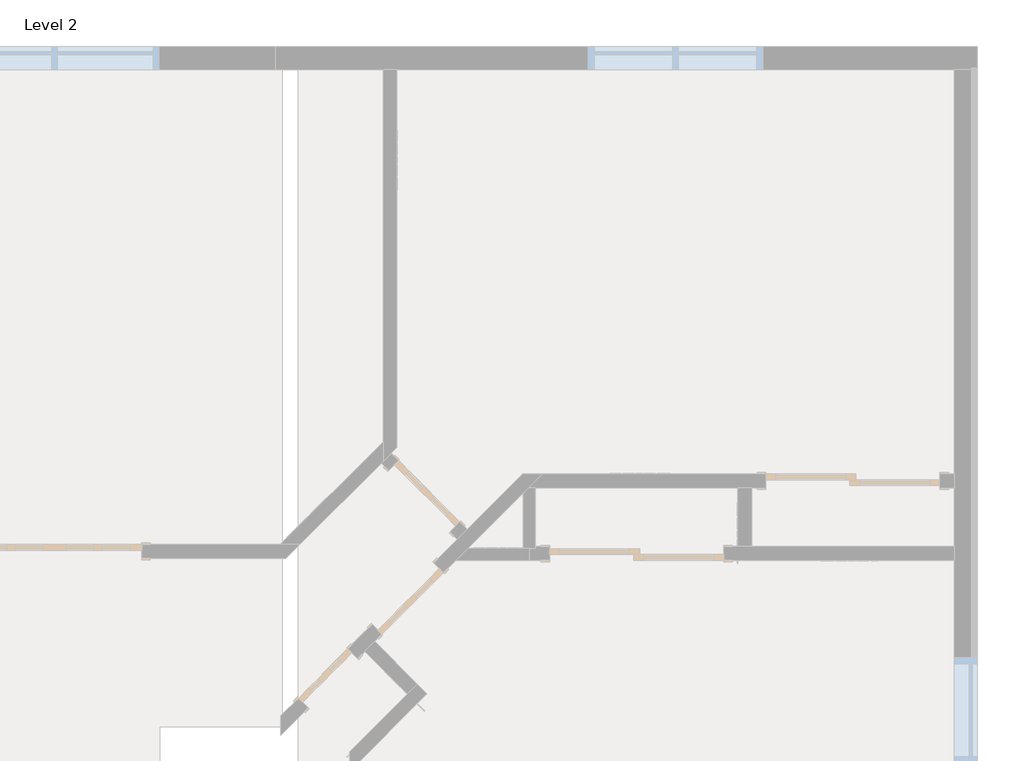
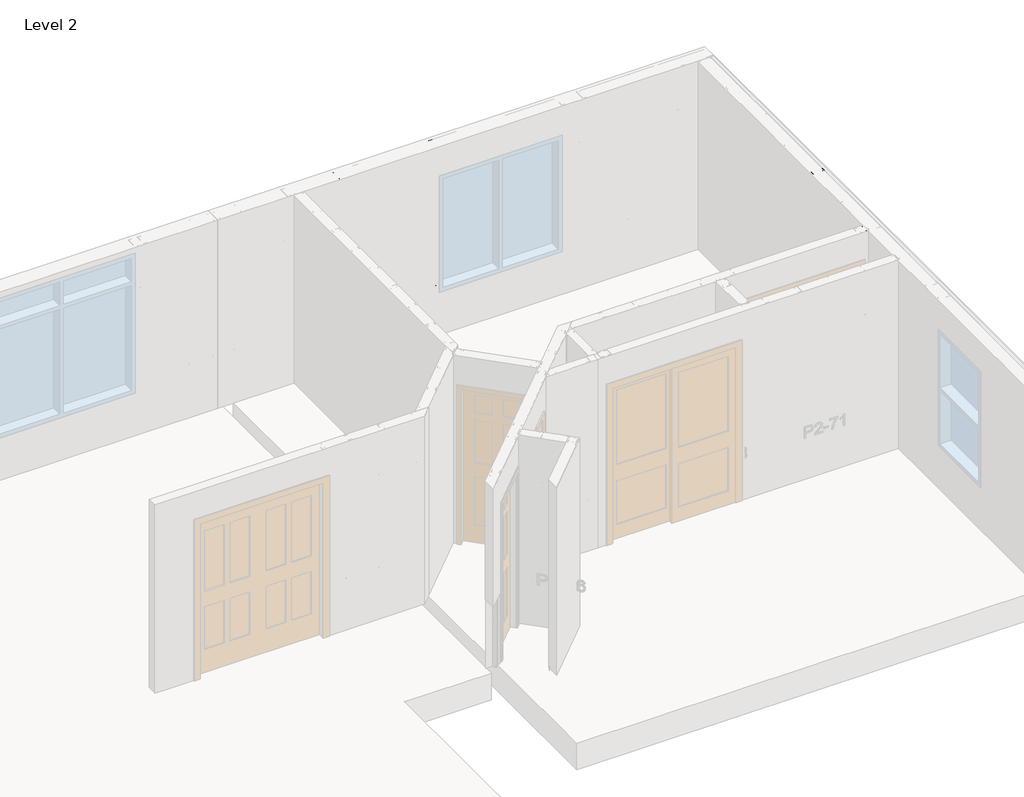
# One storey, part 44 of 46: 6 columns, 2 beams, 2 fasteners.
"""IFC4 building model written with IfcOpenShell, lengths in millimetres."""

from ifc_helpers import new_model, si_unit, point, frame, origin, place, context, project, spatial, circle_curve, ellipse_curve, trimmed, transform, mapped, element, save
from ifc_brep_helpers import plane_surface, extruded_surface, advanced_brep
from components import beam_550nf150_43_bc1485c3, beam_550nf150_43_ef4a749e, panellabel_13bba4b9, panellabel_7984cc64

model = new_model("IFC4")

# Units and contexts
model_context = context("Model", 3, world=origin())
ifc_project = project(units=[si_unit("LENGTHUNIT", "METRE", prefix="MILLI")], contexts=[model_context])

# Site, building, storey
site = spatial("IfcSite", under=ifc_project)
building = spatial("IfcBuilding", under=site)
storey = spatial("IfcBuildingStorey", under=building, Name="Level 2", Elevation=3060.7)

# Beams
placement = place(None, origin())
beam_550nf150_43_shape = beam_550nf150_43_bc1485c3(model_context)
element("IfcBeam", 1, ObjectType="BIMSF-SSMA-S : 550NF150-43", at=placement, inside=storey, context=model_context, shape_type="MappedRepresentation", body=[
    mapped(beam_550nf150_43_shape, transform((-6119.9413349, 13935.202221, 3076.575), x_axis=(1.0000000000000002, 0.0, 0.0), y_axis=(0.0, 0.0, -1.0000000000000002), z_axis=(0.0, 1.0000000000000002, 0.0))),
])
beam_550nf150_43_2_shape = beam_550nf150_43_ef4a749e(model_context)
element("IfcBeam", 2, ObjectType="BIMSF-SSMA-S : 550NF150-43", at=placement, inside=storey, context=model_context, shape_type="MappedRepresentation", body=[
    mapped(beam_550nf150_43_2_shape, transform((-5665.3824436, 13935.202221, 3600.45), x_axis=(1.0, 0.0, 0.0), y_axis=(0.0, 0.0, 1.0), z_axis=(0.0, -1.0, 0.0))),
])

# Columns
element("IfcColumn", 3, ObjectType="BIMSF-SSMA-S-Column : 350NF150-33", at=placement, inside=storey, context=model_context, shape_type="AdvancedBrep", body=[
    advanced_brep(
    [(-3211.6413349, 10295.5707511, 3061.5929687), (-3211.6413349, 10206.6707511, 3061.5929687), (-3249.7413349, 10206.6707511, 3061.5929687), (-3249.7413349, 10212.3282669, 3061.5929687), (-3248.8590191, 10212.3282669, 3061.5929687), (-3248.8590191, 10207.5530669, 3061.5929687), (-3212.5236507, 10207.5530669, 3061.5929687), (-3212.5236507, 10294.6884353, 3061.5929687), (-3248.8590191, 10294.6884353, 3061.5929687), (-3248.8590191, 10289.9132353, 3061.5929687), (-3249.7413349, 10289.9132353, 3061.5929687), (-3249.7413349, 10295.5707511, 3061.5929687), (-3211.6413349, 10295.5707511, 5523.6070313), (-3211.6413349, 10206.6707511, 5523.6070313), (-3211.6413349, 10238.4207511, 3671.1929687), (-3211.6413349, 10263.8207511, 3671.1929687), (-3211.6413349, 10238.4207511, 4890.3929687), (-3211.6413349, 10263.8207511, 4890.3929687), (-3249.7413349, 10206.6707511, 5523.6070313), (-3249.7413349, 10212.3282669, 5523.6070313), (-3248.8590191, 10212.3282669, 5523.6070313), (-3248.8590191, 10207.5530669, 5523.6070313), (-3212.5236507, 10207.5530669, 5523.6070313), (-3212.5236507, 10294.6884353, 5523.6070313), (-3212.5236507, 10263.8207511, 3671.1929688), (-3212.5236507, 10238.4207511, 3671.1929688), (-3212.5236507, 10263.8207511, 4890.3929687), (-3212.5236507, 10238.4207511, 4890.3929687), (-3248.8590191, 10294.6884353, 5523.6070313), (-3248.8590191, 10289.9132353, 5523.6070313), (-3249.7413349, 10289.9132353, 5523.6070313), (-3249.7413349, 10295.5707511, 5523.6070313)],
    [
        (0, 1),
        (1, 2),
        (2, 3),
        (3, 4),
        (4, 5),
        (5, 6),
        (6, 7),
        (7, 8),
        (8, 9),
        (9, 10),
        (10, 11),
        (11, 0),
        (0, 12),
        (12, 13),
        (13, 1),
        (14, 15, circle_curve(frame((-3211.6413349, 10251.1207511, 3671.1929688), z_axis=(-1.0, 0.0, 0.0), x_axis=(0.0, -1.0, 0.0)), 12.7)),
        (15, 14, circle_curve(frame((-3211.6413349, 10251.1207511, 3671.1929688), z_axis=(-1.0, 0.0, 0.0), x_axis=(0.0, -1.0, 0.0)), 12.7)),
        (16, 17, circle_curve(frame((-3211.6413349, 10251.1207511, 4890.3929687), z_axis=(-1.0, 0.0, 0.0), x_axis=(0.0, -1.0, 0.0)), 12.7)),
        (17, 16, circle_curve(frame((-3211.6413349, 10251.1207511, 4890.3929687), z_axis=(-1.0, 0.0, 0.0), x_axis=(0.0, -1.0, 0.0)), 12.7)),
        (13, 18),
        (18, 2),
        (18, 19),
        (19, 3),
        (19, 20),
        (20, 4),
        (20, 21),
        (21, 5),
        (21, 22),
        (22, 6),
        (22, 23),
        (23, 7),
        (24, 25, circle_curve(frame((-3212.5236507, 10251.1207511, 3671.1929687), z_axis=(1.0, 0.0, 0.0), x_axis=(0.0, -1.0, 0.0)), 12.7)),
        (25, 24, circle_curve(frame((-3212.5236507, 10251.1207511, 3671.1929687), z_axis=(1.0, 0.0, 0.0), x_axis=(0.0, -1.0, 0.0)), 12.7)),
        (26, 27, circle_curve(frame((-3212.5236507, 10251.1207511, 4890.3929687), z_axis=(1.0, 0.0, 0.0), x_axis=(0.0, -1.0, 0.0)), 12.7)),
        (27, 26, circle_curve(frame((-3212.5236507, 10251.1207511, 4890.3929687), z_axis=(1.0, 0.0, 0.0), x_axis=(0.0, -1.0, 0.0)), 12.7)),
        (23, 28),
        (28, 8),
        (28, 29),
        (29, 9),
        (29, 30),
        (30, 10),
        (30, 31),
        (31, 11),
        (31, 12),
        (24, 15),
        (14, 25),
        (26, 17),
        (16, 27),
    ],
    [
        plane_surface(frame((-3211.6413349, 10295.5707511, 3061.5929687), z_axis=(0.0, 0.0, -1.0), x_axis=(1.0, 0.0, 0.0))),
        plane_surface(frame((-3211.6413349, 10206.6707511, 5523.6070313), z_axis=(1.0, 0.0, 0.0), x_axis=(0.0, 0.0, -1.0))),
        plane_surface(frame((-3249.7413349, 10206.6707511, 5523.6070313), z_axis=(0.0, -1.0, 0.0), x_axis=(0.0, 0.0, -1.0))),
        plane_surface(frame((-3249.7413349, 10212.3282669, 5523.6070313), z_axis=(-1.0, 0.0, 0.0), x_axis=(0.0, 0.0, -1.0))),
        plane_surface(frame((-3248.8590191, 10212.3282669, 5523.6070313), z_axis=(0.0, 1.0, 0.0), x_axis=(0.0, 0.0, -1.0))),
        plane_surface(frame((-3248.8590191, 10207.5530669, 5523.6070313), z_axis=(1.0, 0.0, 0.0), x_axis=(0.0, 0.0, -1.0))),
        plane_surface(frame((-3212.5236507, 10207.5530669, 5523.6070313), z_axis=(0.0, 1.0, 0.0), x_axis=(0.0, 0.0, -1.0))),
        plane_surface(frame((-3212.5236507, 10294.6884353, 5523.6070313), z_axis=(-1.0, 0.0, 0.0), x_axis=(0.0, 0.0, -1.0))),
        plane_surface(frame((-3248.8590191, 10294.6884353, 5523.6070313), z_axis=(0.0, -1.0, 0.0), x_axis=(0.0, 0.0, -1.0))),
        plane_surface(frame((-3248.8590191, 10289.9132353, 5523.6070313), z_axis=(1.0, 0.0, 0.0), x_axis=(0.0, 0.0, -1.0))),
        plane_surface(frame((-3249.7413349, 10289.9132353, 5523.6070313), z_axis=(0.0, -1.0, 0.0), x_axis=(0.0, 0.0, -1.0))),
        plane_surface(frame((-3249.7413349, 10295.5707511, 5523.6070313), z_axis=(-1.0, 0.0, 0.0), x_axis=(0.0, 0.0, -1.0))),
        plane_surface(frame((-3211.6413349, 10295.5707511, 5523.6070313), z_axis=(0.0, 1.0, 0.0), x_axis=(0.0, 0.0, -1.0))),
        plane_surface(frame((-3211.6413349, 10295.5707511, 5523.6070313), z_axis=(0.0, 0.0, 1.0), x_axis=(-1.0, 0.0, 0.0))),
        extruded_surface(trimmed(ellipse_curve(frame((-5692.7053974, 10251.1207511, 3671.1929688), z_axis=(1.0, 0.0, 0.0), x_axis=(0.0, -1.0, 0.0)), 12.7, 12.7), [point((-5692.7053974, 10263.8207511, 3671.1929688))], [point((-5692.7053974, 10238.4207511, 3671.1929688))], True, "CARTESIAN"), (-4924.028125, 0.0, 0.0), 4924.028125),
        extruded_surface(trimmed(ellipse_curve(frame((-5692.7053974, 10251.1207511, 3671.1929688), z_axis=(1.0, 0.0, 0.0), x_axis=(0.0, -1.0, 0.0)), 12.7, 12.7), [point((-5692.7053974, 10238.4207511, 3671.1929688))], [point((-5692.7053974, 10263.8207511, 3671.1929688))], True, "CARTESIAN"), (-4924.028125, 0.0, 0.0), 4924.028125),
        extruded_surface(trimmed(ellipse_curve(frame((-5692.7053974, 10251.1207511, 4890.3929687), z_axis=(1.0, 0.0, 0.0), x_axis=(0.0, -1.0, 0.0)), 12.7, 12.7), [point((-5692.7053974, 10263.8207511, 4890.3929687))], [point((-5692.7053974, 10238.4207511, 4890.3929687))], True, "CARTESIAN"), (-4924.028125, 0.0, 0.0), 4924.028125),
        extruded_surface(trimmed(ellipse_curve(frame((-5692.7053974, 10251.1207511, 4890.3929687), z_axis=(1.0, 0.0, 0.0), x_axis=(0.0, -1.0, 0.0)), 12.7, 12.7), [point((-5692.7053974, 10238.4207511, 4890.3929687))], [point((-5692.7053974, 10263.8207511, 4890.3929687))], True, "CARTESIAN"), (-4924.028125, 0.0, 0.0), 4924.028125),
    ],
    [
        (0, [[1, 2, 3, 4, 5, 6, 7, 8, 9, 10, 11, 12]]),
        (1, [[-1, 13, 14, 15], [16, 17], [18, 19]]),
        (2, [[-2, -15, 20, 21]]),
        (3, [[-3, -21, 22, 23]]),
        (4, [[-4, -23, 24, 25]]),
        (5, [[-5, -25, 26, 27]]),
        (6, [[-6, -27, 28, 29]]),
        (7, [[-7, -29, 30, 31], [32, 33], [34, 35]]),
        (8, [[-8, -31, 36, 37]]),
        (9, [[-9, -37, 38, 39]]),
        (10, [[-10, -39, 40, 41]]),
        (11, [[-11, -41, 42, 43]]),
        (12, [[-12, -43, 44, -13]]),
        (13, [[-14, -44, -42, -40, -38, -36, -30, -28, -26, -24, -22, -20]]),
        (14, [[45, -16, 46, -32]]),
        (15, [[-45, -33, -46, -17]]),
        (16, [[47, -18, 48, -34]]),
        (17, [[-47, -35, -48, -19]]),
    ],
),
])
element("IfcColumn", 4, ObjectType="BIMSF-SSMA-S-Column : 550NF150-43", at=placement, inside=storey, context=model_context, shape_type="AdvancedBrep", body=[
    advanced_brep(
    [(-6427.3824436, 14005.052221, 3061.5929687), (-6427.3824436, 13865.352221, 3061.5929687), (-6465.4824436, 13865.352221, 3061.5929687), (-6465.4824436, 13871.2771052, 3061.5929687), (-6464.3327594, 13871.2771052, 3061.5929687), (-6464.3327594, 13866.5019052, 3061.5929687), (-6428.5321278, 13866.5019052, 3061.5929687), (-6428.5321278, 14003.9025367, 3061.5929687), (-6464.3327594, 14003.9025367, 3061.5929687), (-6464.3327594, 13999.1273367, 3061.5929687), (-6465.4824436, 13999.1273367, 3061.5929687), (-6465.4824436, 14005.052221, 3061.5929687), (-6427.3824436, 14005.052221, 5523.6070313), (-6427.3824436, 13865.352221, 5523.6070313), (-6427.3824436, 13922.502221, 3671.1929687), (-6427.3824436, 13947.902221, 3671.1929687), (-6427.3824436, 13922.502221, 4890.3929688), (-6427.3824436, 13947.902221, 4890.3929687), (-6465.4824436, 13865.352221, 5523.6070313), (-6465.4824436, 13871.2771052, 5523.6070313), (-6464.3327594, 13871.2771052, 5523.6070313), (-6464.3327594, 13866.5019052, 5523.6070313), (-6428.5321278, 13866.5019052, 5523.6070313), (-6428.5321278, 14003.9025367, 5523.6070313), (-6428.5321278, 13947.902221, 3671.1929687), (-6428.5321278, 13922.502221, 3671.1929687), (-6428.5321278, 13947.902221, 4890.3929687), (-6428.5321278, 13922.502221, 4890.3929688), (-6464.3327594, 14003.9025367, 5523.6070313), (-6464.3327594, 13999.1273367, 5523.6070313), (-6465.4824436, 13999.1273367, 5523.6070313), (-6465.4824436, 14005.052221, 5523.6070313)],
    [
        (0, 1),
        (1, 2),
        (2, 3),
        (3, 4),
        (4, 5),
        (5, 6),
        (6, 7),
        (7, 8),
        (8, 9),
        (9, 10),
        (10, 11),
        (11, 0),
        (0, 12),
        (12, 13),
        (13, 1),
        (14, 15, circle_curve(frame((-6427.3824436, 13935.202221, 3671.1929688), z_axis=(-1.0, 0.0, 0.0), x_axis=(0.0, -1.0, 0.0)), 12.7)),
        (15, 14, circle_curve(frame((-6427.3824436, 13935.202221, 3671.1929688), z_axis=(-1.0, 0.0, 0.0), x_axis=(0.0, -1.0, 0.0)), 12.7)),
        (16, 17, circle_curve(frame((-6427.3824436, 13935.202221, 4890.3929687), z_axis=(-1.0, 0.0, 0.0), x_axis=(0.0, -1.0, 0.0)), 12.7)),
        (17, 16, circle_curve(frame((-6427.3824436, 13935.202221, 4890.3929687), z_axis=(-1.0, 0.0, 0.0), x_axis=(0.0, -1.0, 0.0)), 12.7)),
        (13, 18),
        (18, 2),
        (18, 19),
        (19, 3),
        (19, 20),
        (20, 4),
        (20, 21),
        (21, 5),
        (21, 22),
        (22, 6),
        (22, 23),
        (23, 7),
        (24, 25, circle_curve(frame((-6428.5321278, 13935.202221, 3671.1929688), z_axis=(1.0, 0.0, 0.0), x_axis=(0.0, -1.0, 0.0)), 12.7)),
        (25, 24, circle_curve(frame((-6428.5321278, 13935.202221, 3671.1929687), z_axis=(1.0, 0.0, 0.0), x_axis=(0.0, -1.0, 0.0)), 12.7)),
        (26, 27, circle_curve(frame((-6428.5321278, 13935.202221, 4890.3929687), z_axis=(1.0, 0.0, 0.0), x_axis=(0.0, -1.0, 0.0)), 12.7)),
        (27, 26, circle_curve(frame((-6428.5321278, 13935.202221, 4890.3929687), z_axis=(1.0, 0.0, 0.0), x_axis=(0.0, -1.0, 0.0)), 12.7)),
        (23, 28),
        (28, 8),
        (28, 29),
        (29, 9),
        (29, 30),
        (30, 10),
        (30, 31),
        (31, 11),
        (31, 12),
        (24, 15),
        (14, 25),
        (26, 17),
        (16, 27),
    ],
    [
        plane_surface(frame((-6427.3824436, 14005.052221, 3061.5929687), z_axis=(0.0, 0.0, -1.0), x_axis=(1.0, 0.0, 0.0))),
        plane_surface(frame((-6427.3824436, 13865.352221, 5523.6070313), z_axis=(1.0, 0.0, 0.0), x_axis=(0.0, 0.0, -1.0))),
        plane_surface(frame((-6465.4824436, 13865.352221, 5523.6070313), z_axis=(0.0, -1.0, 0.0), x_axis=(0.0, 0.0, -1.0))),
        plane_surface(frame((-6465.4824436, 13871.2771052, 5523.6070313), z_axis=(-1.0, 0.0, 0.0), x_axis=(0.0, 0.0, -1.0))),
        plane_surface(frame((-6464.3327594, 13871.2771052, 5523.6070313), z_axis=(0.0, 1.0, 0.0), x_axis=(0.0, 0.0, -1.0))),
        plane_surface(frame((-6464.3327594, 13866.5019052, 5523.6070313), z_axis=(1.0, 0.0, 0.0), x_axis=(0.0, 0.0, -1.0))),
        plane_surface(frame((-6428.5321278, 13866.5019052, 5523.6070313), z_axis=(0.0, 1.0, 0.0), x_axis=(0.0, 0.0, -1.0))),
        plane_surface(frame((-6428.5321278, 14003.9025367, 5523.6070313), z_axis=(-1.0, 0.0, 0.0), x_axis=(0.0, 0.0, -1.0))),
        plane_surface(frame((-6464.3327594, 14003.9025367, 5523.6070313), z_axis=(0.0, -1.0, 0.0), x_axis=(0.0, 0.0, -1.0))),
        plane_surface(frame((-6464.3327594, 13999.1273367, 5523.6070313), z_axis=(1.0, 0.0, 0.0), x_axis=(0.0, 0.0, -1.0))),
        plane_surface(frame((-6465.4824436, 13999.1273367, 5523.6070313), z_axis=(0.0, -1.0, 0.0), x_axis=(0.0, 0.0, -1.0))),
        plane_surface(frame((-6465.4824436, 14005.052221, 5523.6070313), z_axis=(-1.0, 0.0, 0.0), x_axis=(0.0, 0.0, -1.0))),
        plane_surface(frame((-6427.3824436, 14005.052221, 5523.6070313), z_axis=(0.0, 1.0, 0.0), x_axis=(0.0, 0.0, -1.0))),
        plane_surface(frame((-6427.3824436, 14005.052221, 5523.6070313), z_axis=(0.0, 0.0, 1.0), x_axis=(-1.0, 0.0, 0.0))),
        extruded_surface(trimmed(ellipse_curve(frame((-8908.4465061, 13935.202221, 3671.1929688), z_axis=(1.0, 0.0, 0.0), x_axis=(0.0, -1.0, 0.0)), 12.7, 12.7), [point((-8908.4465061, 13947.902221, 3671.1929688))], [point((-8908.4465061, 13922.502221, 3671.1929688))], True, "CARTESIAN"), (-4924.028125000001, 0.0, 0.0), 4924.028125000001),
        extruded_surface(trimmed(ellipse_curve(frame((-8908.4465061, 13935.202221, 3671.1929688), z_axis=(1.0, 0.0, 0.0), x_axis=(0.0, -1.0, 0.0)), 12.7, 12.7), [point((-8908.4465061, 13922.502221, 3671.1929688))], [point((-8908.4465061, 13947.902221, 3671.1929688))], True, "CARTESIAN"), (-4924.028125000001, 0.0, 0.0), 4924.028125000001),
        extruded_surface(trimmed(ellipse_curve(frame((-8908.4465061, 13935.202221, 4890.3929687), z_axis=(1.0, 0.0, 0.0), x_axis=(0.0, -1.0, 0.0)), 12.7, 12.7), [point((-8908.4465061, 13947.902221, 4890.3929687))], [point((-8908.4465061, 13922.502221, 4890.3929687))], True, "CARTESIAN"), (-4924.028125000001, 0.0, 0.0), 4924.028125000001),
        extruded_surface(trimmed(ellipse_curve(frame((-8908.4465061, 13935.202221, 4890.3929687), z_axis=(1.0, 0.0, 0.0), x_axis=(0.0, -1.0, 0.0)), 12.7, 12.7), [point((-8908.4465061, 13922.502221, 4890.3929687))], [point((-8908.4465061, 13947.902221, 4890.3929687))], True, "CARTESIAN"), (-4924.028125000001, 0.0, 0.0), 4924.028125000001),
    ],
    [
        (0, [[1, 2, 3, 4, 5, 6, 7, 8, 9, 10, 11, 12]]),
        (1, [[-1, 13, 14, 15], [16, 17], [18, 19]]),
        (2, [[-2, -15, 20, 21]]),
        (3, [[-3, -21, 22, 23]]),
        (4, [[-4, -23, 24, 25]]),
        (5, [[-5, -25, 26, 27]]),
        (6, [[-6, -27, 28, 29]]),
        (7, [[-7, -29, 30, 31], [32, 33], [34, 35]]),
        (8, [[-8, -31, 36, 37]]),
        (9, [[-9, -37, 38, 39]]),
        (10, [[-10, -39, 40, 41]]),
        (11, [[-11, -41, 42, 43]]),
        (12, [[-12, -43, 44, -13]]),
        (13, [[-14, -44, -42, -40, -38, -36, -30, -28, -26, -24, -22, -20]]),
        (14, [[45, -16, 46, -32]]),
        (15, [[-45, -33, -46, -17]]),
        (16, [[47, -18, 48, -34]]),
        (17, [[-47, -35, -48, -19]]),
    ],
),
])
element("IfcColumn", 5, ObjectType="BIMSF-SSMA-S-Column : 550NF150-43", at=placement, inside=storey, context=model_context, shape_type="AdvancedBrep", body=[
    advanced_brep(
    [(-7688.6889911, 13865.352221, 3061.5929687), (-7688.6889911, 14005.052221, 3061.5929687), (-7650.5889911, 14005.052221, 3061.5929687), (-7650.5889911, 13999.1273367, 3061.5929687), (-7651.7386753, 13999.1273367, 3061.5929687), (-7651.7386753, 14003.9025367, 3061.5929687), (-7687.5393069, 14003.9025367, 3061.5929687), (-7687.5393069, 13866.5019052, 3061.5929687), (-7651.7386753, 13866.5019052, 3061.5929687), (-7651.7386753, 13871.2771052, 3061.5929687), (-7650.5889911, 13871.2771052, 3061.5929687), (-7650.5889911, 13865.352221, 3061.5929687), (-7688.6889911, 13865.352221, 5523.6070313), (-7688.6889911, 14005.052221, 5523.6070313), (-7688.6889911, 13947.902221, 3671.1929688), (-7688.6889911, 13922.502221, 3671.1929688), (-7688.6889911, 13947.902221, 4890.3929687), (-7688.6889911, 13922.502221, 4890.3929687), (-7650.5889911, 14005.052221, 5523.6070313), (-7650.5889911, 13999.1273367, 5523.6070313), (-7651.7386753, 13999.1273367, 5523.6070313), (-7651.7386753, 14003.9025367, 5523.6070313), (-7687.5393069, 14003.9025367, 5523.6070313), (-7687.5393069, 13866.5019052, 5523.6070313), (-7687.5393069, 13922.502221, 3671.1929688), (-7687.5393069, 13947.902221, 3671.1929688), (-7687.5393069, 13922.502221, 4890.3929687), (-7687.5393069, 13947.902221, 4890.3929687), (-7651.7386753, 13866.5019052, 5523.6070313), (-7651.7386753, 13871.2771052, 5523.6070313), (-7650.5889911, 13871.2771052, 5523.6070313), (-7650.5889911, 13865.352221, 5523.6070313)],
    [
        (0, 1),
        (1, 2),
        (2, 3),
        (3, 4),
        (4, 5),
        (5, 6),
        (6, 7),
        (7, 8),
        (8, 9),
        (9, 10),
        (10, 11),
        (11, 0),
        (0, 12),
        (12, 13),
        (13, 1),
        (14, 15, circle_curve(frame((-7688.6889911, 13935.202221, 3671.1929687), z_axis=(1.0, 0.0, 0.0), x_axis=(0.0, 1.0, 0.0)), 12.7)),
        (15, 14, circle_curve(frame((-7688.6889911, 13935.202221, 3671.1929687), z_axis=(1.0, 0.0, 0.0), x_axis=(0.0, 1.0, 0.0)), 12.7)),
        (16, 17, circle_curve(frame((-7688.6889911, 13935.202221, 4890.3929687), z_axis=(1.0, 0.0, 0.0), x_axis=(0.0, 1.0, 0.0)), 12.7)),
        (17, 16, circle_curve(frame((-7688.6889911, 13935.202221, 4890.3929687), z_axis=(1.0, 0.0, 0.0), x_axis=(0.0, 1.0, 0.0)), 12.7)),
        (13, 18),
        (18, 2),
        (18, 19),
        (19, 3),
        (19, 20),
        (20, 4),
        (20, 21),
        (21, 5),
        (21, 22),
        (22, 6),
        (22, 23),
        (23, 7),
        (24, 25, circle_curve(frame((-7687.5393069, 13935.202221, 3671.1929687), z_axis=(-1.0, 0.0, 0.0), x_axis=(0.0, 1.0, 0.0)), 12.7)),
        (25, 24, circle_curve(frame((-7687.5393069, 13935.202221, 3671.1929687), z_axis=(-1.0, 0.0, 0.0), x_axis=(0.0, 1.0, 0.0)), 12.7)),
        (26, 27, circle_curve(frame((-7687.5393069, 13935.202221, 4890.3929687), z_axis=(-1.0, 0.0, 0.0), x_axis=(0.0, 1.0, 0.0)), 12.7)),
        (27, 26, circle_curve(frame((-7687.5393069, 13935.202221, 4890.3929687), z_axis=(-1.0, 0.0, 0.0), x_axis=(0.0, 1.0, 0.0)), 12.7)),
        (23, 28),
        (28, 8),
        (28, 29),
        (29, 9),
        (29, 30),
        (30, 10),
        (30, 31),
        (31, 11),
        (31, 12),
        (24, 15),
        (14, 25),
        (26, 17),
        (16, 27),
    ],
    [
        plane_surface(frame((-7688.6889911, 13865.352221, 3061.5929687), z_axis=(0.0, 0.0, -1.0), x_axis=(-1.0, 0.0, 0.0))),
        plane_surface(frame((-7688.6889911, 14005.052221, 5523.6070313), z_axis=(-1.0, 0.0, 0.0), x_axis=(0.0, 0.0, -1.0))),
        plane_surface(frame((-7650.5889911, 14005.052221, 5523.6070313), z_axis=(0.0, 1.0, 0.0), x_axis=(0.0, 0.0, -1.0))),
        plane_surface(frame((-7650.5889911, 13999.1273367, 5523.6070313), z_axis=(1.0, 0.0, 0.0), x_axis=(0.0, 0.0, -1.0))),
        plane_surface(frame((-7651.7386753, 13999.1273367, 5523.6070313), z_axis=(0.0, -1.0, 0.0), x_axis=(0.0, 0.0, -1.0))),
        plane_surface(frame((-7651.7386753, 14003.9025367, 5523.6070313), z_axis=(-1.0, 0.0, 0.0), x_axis=(0.0, 0.0, -1.0))),
        plane_surface(frame((-7687.5393069, 14003.9025367, 5523.6070313), z_axis=(0.0, -1.0, 0.0), x_axis=(0.0, 0.0, -1.0))),
        plane_surface(frame((-7687.5393069, 13866.5019052, 5523.6070313), z_axis=(1.0, 0.0, 0.0), x_axis=(0.0, 0.0, -1.0))),
        plane_surface(frame((-7651.7386753, 13866.5019052, 5523.6070313), z_axis=(0.0, 1.0, 0.0), x_axis=(0.0, 0.0, -1.0))),
        plane_surface(frame((-7651.7386753, 13871.2771052, 5523.6070313), z_axis=(-1.0, 0.0, 0.0), x_axis=(0.0, 0.0, -1.0))),
        plane_surface(frame((-7650.5889911, 13871.2771052, 5523.6070313), z_axis=(0.0, 1.0, 0.0), x_axis=(0.0, 0.0, -1.0))),
        plane_surface(frame((-7650.5889911, 13865.352221, 5523.6070313), z_axis=(1.0, 0.0, 0.0), x_axis=(0.0, 0.0, -1.0))),
        plane_surface(frame((-7688.6889911, 13865.352221, 5523.6070313), z_axis=(0.0, -1.0, 0.0), x_axis=(0.0, 0.0, -1.0))),
        plane_surface(frame((-7688.6889911, 13865.352221, 5523.6070313), z_axis=(0.0, 0.0, 1.0), x_axis=(1.0, 0.0, 0.0))),
        extruded_surface(trimmed(ellipse_curve(frame((-5207.6249286, 13935.202221, 3671.1929688), z_axis=(-1.0, 0.0, 0.0), x_axis=(0.0, 1.0, 0.0)), 12.7, 12.7), [point((-5207.6249286, 13922.502221, 3671.1929688))], [point((-5207.6249286, 13947.902221, 3671.1929688))], True, "CARTESIAN"), (4924.028125, 0.0, 0.0), 4924.028125),
        extruded_surface(trimmed(ellipse_curve(frame((-5207.6249286, 13935.202221, 3671.1929688), z_axis=(-1.0, 0.0, 0.0), x_axis=(0.0, 1.0, 0.0)), 12.7, 12.7), [point((-5207.6249286, 13947.902221, 3671.1929688))], [point((-5207.6249286, 13922.502221, 3671.1929688))], True, "CARTESIAN"), (4924.028125, 0.0, 0.0), 4924.028125),
        extruded_surface(trimmed(ellipse_curve(frame((-5207.6249286, 13935.202221, 4890.3929687), z_axis=(-1.0, 0.0, 0.0), x_axis=(0.0, 1.0, 0.0)), 12.7, 12.7), [point((-5207.6249286, 13922.502221, 4890.3929687))], [point((-5207.6249286, 13947.902221, 4890.3929687))], True, "CARTESIAN"), (4924.028125, 0.0, 0.0), 4924.028125),
        extruded_surface(trimmed(ellipse_curve(frame((-5207.6249286, 13935.202221, 4890.3929687), z_axis=(-1.0, 0.0, 0.0), x_axis=(0.0, 1.0, 0.0)), 12.7, 12.7), [point((-5207.6249286, 13947.902221, 4890.3929687))], [point((-5207.6249286, 13922.502221, 4890.3929687))], True, "CARTESIAN"), (4924.028125, 0.0, 0.0), 4924.028125),
    ],
    [
        (0, [[1, 2, 3, 4, 5, 6, 7, 8, 9, 10, 11, 12]]),
        (1, [[-1, 13, 14, 15], [16, 17], [18, 19]]),
        (2, [[-2, -15, 20, 21]]),
        (3, [[-3, -21, 22, 23]]),
        (4, [[-4, -23, 24, 25]]),
        (5, [[-5, -25, 26, 27]]),
        (6, [[-6, -27, 28, 29]]),
        (7, [[-7, -29, 30, 31], [32, 33], [34, 35]]),
        (8, [[-8, -31, 36, 37]]),
        (9, [[-9, -37, 38, 39]]),
        (10, [[-10, -39, 40, 41]]),
        (11, [[-11, -41, 42, 43]]),
        (12, [[-12, -43, 44, -13]]),
        (13, [[-14, -44, -42, -40, -38, -36, -30, -28, -26, -24, -22, -20]]),
        (14, [[45, -16, 46, -32]]),
        (15, [[-45, -33, -46, -17]]),
        (16, [[47, -18, 48, -34]]),
        (17, [[-47, -35, -48, -19]]),
    ],
),
])
element("IfcColumn", 6, ObjectType="BIMSF-SSMA-S-Column : 550NF150-43", at=placement, inside=storey, context=model_context, shape_type="AdvancedBrep", body=[
    advanced_brep(
    [(-7079.0889911, 13865.352221, 3061.5929687), (-7079.0889911, 14005.052221, 3061.5929687), (-7040.9889911, 14005.052221, 3061.5929687), (-7040.9889911, 13999.1273367, 3061.5929687), (-7042.1386753, 13999.1273367, 3061.5929687), (-7042.1386753, 14003.9025367, 3061.5929687), (-7077.9393069, 14003.9025367, 3061.5929687), (-7077.9393069, 13866.5019052, 3061.5929687), (-7042.1386753, 13866.5019052, 3061.5929687), (-7042.1386753, 13871.2771052, 3061.5929687), (-7040.9889911, 13871.2771052, 3061.5929687), (-7040.9889911, 13865.352221, 3061.5929687), (-7079.0889911, 13865.352221, 5523.6070313), (-7079.0889911, 14005.052221, 5523.6070313), (-7079.0889911, 13947.902221, 3671.1929687), (-7079.0889911, 13922.502221, 3671.1929688), (-7079.0889911, 13947.902221, 4890.3929687), (-7079.0889911, 13922.502221, 4890.3929687), (-7040.9889911, 14005.052221, 5523.6070313), (-7040.9889911, 13999.1273367, 5523.6070313), (-7042.1386753, 13999.1273367, 5523.6070313), (-7042.1386753, 14003.9025367, 5523.6070313), (-7077.9393069, 14003.9025367, 5523.6070313), (-7077.9393069, 13866.5019052, 5523.6070313), (-7077.9393069, 13922.502221, 3671.1929688), (-7077.9393069, 13947.902221, 3671.1929688), (-7077.9393069, 13922.502221, 4890.3929687), (-7077.9393069, 13947.902221, 4890.3929687), (-7042.1386753, 13866.5019052, 5523.6070313), (-7042.1386753, 13871.2771052, 5523.6070313), (-7040.9889911, 13871.2771052, 5523.6070313), (-7040.9889911, 13865.352221, 5523.6070313)],
    [
        (0, 1),
        (1, 2),
        (2, 3),
        (3, 4),
        (4, 5),
        (5, 6),
        (6, 7),
        (7, 8),
        (8, 9),
        (9, 10),
        (10, 11),
        (11, 0),
        (0, 12),
        (12, 13),
        (13, 1),
        (14, 15, circle_curve(frame((-7079.0889911, 13935.202221, 3671.1929687), z_axis=(1.0, 0.0, 0.0), x_axis=(0.0, 1.0, 0.0)), 12.7)),
        (15, 14, circle_curve(frame((-7079.0889911, 13935.202221, 3671.1929687), z_axis=(1.0, 0.0, 0.0), x_axis=(0.0, 1.0, 0.0)), 12.7)),
        (16, 17, circle_curve(frame((-7079.0889911, 13935.202221, 4890.3929687), z_axis=(1.0, 0.0, 0.0), x_axis=(0.0, 1.0, 0.0)), 12.7)),
        (17, 16, circle_curve(frame((-7079.0889911, 13935.202221, 4890.3929687), z_axis=(1.0, 0.0, 0.0), x_axis=(0.0, 1.0, 0.0)), 12.7)),
        (13, 18),
        (18, 2),
        (18, 19),
        (19, 3),
        (19, 20),
        (20, 4),
        (20, 21),
        (21, 5),
        (21, 22),
        (22, 6),
        (22, 23),
        (23, 7),
        (24, 25, circle_curve(frame((-7077.9393069, 13935.202221, 3671.1929687), z_axis=(-1.0, 0.0, 0.0), x_axis=(0.0, 1.0, 0.0)), 12.7)),
        (25, 24, circle_curve(frame((-7077.9393069, 13935.202221, 3671.1929688), z_axis=(-1.0, 0.0, 0.0), x_axis=(0.0, 1.0, 0.0)), 12.7)),
        (26, 27, circle_curve(frame((-7077.9393069, 13935.202221, 4890.3929687), z_axis=(-1.0, 0.0, 0.0), x_axis=(0.0, 1.0, 0.0)), 12.7)),
        (27, 26, circle_curve(frame((-7077.9393069, 13935.202221, 4890.3929687), z_axis=(-1.0, 0.0, 0.0), x_axis=(0.0, 1.0, 0.0)), 12.7)),
        (23, 28),
        (28, 8),
        (28, 29),
        (29, 9),
        (29, 30),
        (30, 10),
        (30, 31),
        (31, 11),
        (31, 12),
        (24, 15),
        (14, 25),
        (26, 17),
        (16, 27),
    ],
    [
        plane_surface(frame((-7079.0889911, 13865.352221, 3061.5929687), z_axis=(0.0, 0.0, -1.0), x_axis=(-1.0, 0.0, 0.0))),
        plane_surface(frame((-7079.0889911, 14005.052221, 5523.6070313), z_axis=(-1.0, 0.0, 0.0), x_axis=(0.0, 0.0, -1.0))),
        plane_surface(frame((-7040.9889911, 14005.052221, 5523.6070313), z_axis=(0.0, 1.0, 0.0), x_axis=(0.0, 0.0, -1.0))),
        plane_surface(frame((-7040.9889911, 13999.1273367, 5523.6070313), z_axis=(1.0, 0.0, 0.0), x_axis=(0.0, 0.0, -1.0))),
        plane_surface(frame((-7042.1386753, 13999.1273367, 5523.6070313), z_axis=(0.0, -1.0, 0.0), x_axis=(0.0, 0.0, -1.0))),
        plane_surface(frame((-7042.1386753, 14003.9025367, 5523.6070313), z_axis=(-1.0, 0.0, 0.0), x_axis=(0.0, 0.0, -1.0))),
        plane_surface(frame((-7077.9393069, 14003.9025367, 5523.6070313), z_axis=(0.0, -1.0, 0.0), x_axis=(0.0, 0.0, -1.0))),
        plane_surface(frame((-7077.9393069, 13866.5019052, 5523.6070313), z_axis=(1.0, 0.0, 0.0), x_axis=(0.0, 0.0, -1.0))),
        plane_surface(frame((-7042.1386753, 13866.5019052, 5523.6070313), z_axis=(0.0, 1.0, 0.0), x_axis=(0.0, 0.0, -1.0))),
        plane_surface(frame((-7042.1386753, 13871.2771052, 5523.6070313), z_axis=(-1.0, 0.0, 0.0), x_axis=(0.0, 0.0, -1.0))),
        plane_surface(frame((-7040.9889911, 13871.2771052, 5523.6070313), z_axis=(0.0, 1.0, 0.0), x_axis=(0.0, 0.0, -1.0))),
        plane_surface(frame((-7040.9889911, 13865.352221, 5523.6070313), z_axis=(1.0, 0.0, 0.0), x_axis=(0.0, 0.0, -1.0))),
        plane_surface(frame((-7079.0889911, 13865.352221, 5523.6070313), z_axis=(0.0, -1.0, 0.0), x_axis=(0.0, 0.0, -1.0))),
        plane_surface(frame((-7079.0889911, 13865.352221, 5523.6070313), z_axis=(0.0, 0.0, 1.0), x_axis=(1.0, 0.0, 0.0))),
        extruded_surface(trimmed(ellipse_curve(frame((-4598.0249286, 13935.202221, 3671.1929688), z_axis=(-1.0, 0.0, 0.0), x_axis=(0.0, 1.0, 0.0)), 12.7, 12.7), [point((-4598.0249286, 13922.502221, 3671.1929688))], [point((-4598.0249286, 13947.902221, 3671.1929688))], True, "CARTESIAN"), (4924.028125, 0.0, 0.0), 4924.028125),
        extruded_surface(trimmed(ellipse_curve(frame((-4598.0249286, 13935.202221, 3671.1929688), z_axis=(-1.0, 0.0, 0.0), x_axis=(0.0, 1.0, 0.0)), 12.7, 12.7), [point((-4598.0249286, 13947.902221, 3671.1929688))], [point((-4598.0249286, 13922.502221, 3671.1929688))], True, "CARTESIAN"), (4924.028125, 0.0, 0.0), 4924.028125),
        extruded_surface(trimmed(ellipse_curve(frame((-4598.0249286, 13935.202221, 4890.3929687), z_axis=(-1.0, 0.0, 0.0), x_axis=(0.0, 1.0, 0.0)), 12.7, 12.7), [point((-4598.0249286, 13922.502221, 4890.3929687))], [point((-4598.0249286, 13947.902221, 4890.3929687))], True, "CARTESIAN"), (4924.028125, 0.0, 0.0), 4924.028125),
        extruded_surface(trimmed(ellipse_curve(frame((-4598.0249286, 13935.202221, 4890.3929687), z_axis=(-1.0, 0.0, 0.0), x_axis=(0.0, 1.0, 0.0)), 12.7, 12.7), [point((-4598.0249286, 13947.902221, 4890.3929687))], [point((-4598.0249286, 13922.502221, 4890.3929687))], True, "CARTESIAN"), (4924.028125, 0.0, 0.0), 4924.028125),
    ],
    [
        (0, [[1, 2, 3, 4, 5, 6, 7, 8, 9, 10, 11, 12]]),
        (1, [[-1, 13, 14, 15], [16, 17], [18, 19]]),
        (2, [[-2, -15, 20, 21]]),
        (3, [[-3, -21, 22, 23]]),
        (4, [[-4, -23, 24, 25]]),
        (5, [[-5, -25, 26, 27]]),
        (6, [[-6, -27, 28, 29]]),
        (7, [[-7, -29, 30, 31], [32, 33], [34, 35]]),
        (8, [[-8, -31, 36, 37]]),
        (9, [[-9, -37, 38, 39]]),
        (10, [[-10, -39, 40, 41]]),
        (11, [[-11, -41, 42, 43]]),
        (12, [[-12, -43, 44, -13]]),
        (13, [[-14, -44, -42, -40, -38, -36, -30, -28, -26, -24, -22, -20]]),
        (14, [[45, -16, 46, -32]]),
        (15, [[-45, -33, -46, -17]]),
        (16, [[47, -18, 48, -34]]),
        (17, [[-47, -35, -48, -19]]),
    ],
),
])
element("IfcColumn", 7, ObjectType="BIMSF-SSMA-S-Column : 550NF150-43", at=placement, inside=storey, context=model_context, shape_type="AdvancedBrep", body=[
    advanced_brep(
    [(-5859.8889911, 13865.352221, 3061.5929687), (-5859.8889911, 14005.052221, 3061.5929687), (-5821.7889911, 14005.052221, 3061.5929687), (-5821.7889911, 13999.1273367, 3061.5929687), (-5822.9386753, 13999.1273367, 3061.5929687), (-5822.9386753, 14003.9025367, 3061.5929687), (-5858.7393069, 14003.9025367, 3061.5929687), (-5858.7393069, 13866.5019052, 3061.5929687), (-5822.9386753, 13866.5019052, 3061.5929687), (-5822.9386753, 13871.2771052, 3061.5929687), (-5821.7889911, 13871.2771052, 3061.5929687), (-5821.7889911, 13865.352221, 3061.5929687), (-5859.8889911, 13865.352221, 3615.4320313), (-5859.8889911, 14005.052221, 3615.4320313), (-5859.8889911, 13947.902221, 3366.3929687), (-5859.8889911, 13922.502221, 3366.3929687), (-5821.7889911, 14005.052221, 3615.4320313), (-5821.7889911, 13999.1273367, 3615.4320313), (-5822.9386753, 13999.1273367, 3615.4320313), (-5822.9386753, 14003.9025367, 3615.4320313), (-5858.7393069, 14003.9025367, 3615.4320313), (-5858.7393069, 13866.5019052, 3615.4320313), (-5858.7393069, 13922.502221, 3366.3929687), (-5858.7393069, 13947.902221, 3366.3929687), (-5822.9386753, 13866.5019052, 3615.4320313), (-5822.9386753, 13871.2771052, 3615.4320313), (-5821.7889911, 13871.2771052, 3615.4320313), (-5821.7889911, 13865.352221, 3615.4320313)],
    [
        (0, 1),
        (1, 2),
        (2, 3),
        (3, 4),
        (4, 5),
        (5, 6),
        (6, 7),
        (7, 8),
        (8, 9),
        (9, 10),
        (10, 11),
        (11, 0),
        (0, 12),
        (12, 13),
        (13, 1),
        (14, 15, circle_curve(frame((-5859.8889911, 13935.202221, 3366.3929687), z_axis=(1.0, 0.0, 0.0), x_axis=(0.0, 1.0, 0.0)), 12.7)),
        (15, 14, circle_curve(frame((-5859.8889911, 13935.202221, 3366.3929688), z_axis=(1.0, 0.0, 0.0), x_axis=(0.0, 1.0, 0.0)), 12.7)),
        (13, 16),
        (16, 2),
        (16, 17),
        (17, 3),
        (17, 18),
        (18, 4),
        (18, 19),
        (19, 5),
        (19, 20),
        (20, 6),
        (20, 21),
        (21, 7),
        (22, 23, circle_curve(frame((-5858.7393069, 13935.202221, 3366.3929687), z_axis=(-1.0, 0.0, 0.0), x_axis=(0.0, 1.0, 0.0)), 12.7)),
        (23, 22, circle_curve(frame((-5858.7393069, 13935.202221, 3366.3929687), z_axis=(-1.0, 0.0, 0.0), x_axis=(0.0, 1.0, 0.0)), 12.7)),
        (21, 24),
        (24, 8),
        (24, 25),
        (25, 9),
        (25, 26),
        (26, 10),
        (26, 27),
        (27, 11),
        (27, 12),
        (22, 15),
        (14, 23),
    ],
    [
        plane_surface(frame((-5859.8889911, 13865.352221, 3061.5929687), z_axis=(0.0, 0.0, -1.0), x_axis=(-1.0, 0.0, 0.0))),
        plane_surface(frame((-5859.8889911, 14005.052221, 3615.4320313), z_axis=(-1.0, 0.0, 0.0), x_axis=(0.0, 0.0, -1.0))),
        plane_surface(frame((-5821.7889911, 14005.052221, 3615.4320313), z_axis=(0.0, 1.0, 0.0), x_axis=(0.0, 0.0, -1.0))),
        plane_surface(frame((-5821.7889911, 13999.1273367, 3615.4320313), z_axis=(1.0, 0.0, 0.0), x_axis=(0.0, 0.0, -1.0))),
        plane_surface(frame((-5822.9386753, 13999.1273367, 3615.4320313), z_axis=(0.0, -1.0, 0.0), x_axis=(0.0, 0.0, -1.0))),
        plane_surface(frame((-5822.9386753, 14003.9025367, 3615.4320313), z_axis=(-1.0, 0.0, 0.0), x_axis=(0.0, 0.0, -1.0))),
        plane_surface(frame((-5858.7393069, 14003.9025367, 3615.4320313), z_axis=(0.0, -1.0, 0.0), x_axis=(0.0, 0.0, -1.0))),
        plane_surface(frame((-5858.7393069, 13866.5019052, 3615.4320313), z_axis=(1.0, 0.0, 0.0), x_axis=(0.0, 0.0, -1.0))),
        plane_surface(frame((-5822.9386753, 13866.5019052, 3615.4320313), z_axis=(0.0, 1.0, 0.0), x_axis=(0.0, 0.0, -1.0))),
        plane_surface(frame((-5822.9386753, 13871.2771052, 3615.4320313), z_axis=(-1.0, 0.0, 0.0), x_axis=(0.0, 0.0, -1.0))),
        plane_surface(frame((-5821.7889911, 13871.2771052, 3615.4320313), z_axis=(0.0, 1.0, 0.0), x_axis=(0.0, 0.0, -1.0))),
        plane_surface(frame((-5821.7889911, 13865.352221, 3615.4320313), z_axis=(1.0, 0.0, 0.0), x_axis=(0.0, 0.0, -1.0))),
        plane_surface(frame((-5859.8889911, 13865.352221, 3615.4320313), z_axis=(0.0, -1.0, 0.0), x_axis=(0.0, 0.0, -1.0))),
        plane_surface(frame((-5859.8889911, 13865.352221, 3615.4320313), z_axis=(0.0, 0.0, 1.0), x_axis=(1.0, 0.0, 0.0))),
        extruded_surface(trimmed(ellipse_curve(frame((-5286.9999286, 13935.202221, 3366.3929687), z_axis=(-1.0, 0.0, 0.0), x_axis=(0.0, 1.0, 0.0)), 12.7, 12.7), [point((-5286.9999286, 13922.502221, 3366.3929687))], [point((-5286.9999286, 13947.902221, 3366.3929687))], True, "CARTESIAN"), (1107.6781250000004, 0.0, 0.0), 1107.6781250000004),
        extruded_surface(trimmed(ellipse_curve(frame((-5286.9999286, 13935.202221, 3366.3929687), z_axis=(-1.0, 0.0, 0.0), x_axis=(0.0, 1.0, 0.0)), 12.7, 12.7), [point((-5286.9999286, 13947.902221, 3366.3929687))], [point((-5286.9999286, 13922.502221, 3366.3929687))], True, "CARTESIAN"), (1107.6781250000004, 0.0, 0.0), 1107.6781250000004),
    ],
    [
        (0, [[1, 2, 3, 4, 5, 6, 7, 8, 9, 10, 11, 12]]),
        (1, [[-1, 13, 14, 15], [16, 17]]),
        (2, [[-2, -15, 18, 19]]),
        (3, [[-3, -19, 20, 21]]),
        (4, [[-4, -21, 22, 23]]),
        (5, [[-5, -23, 24, 25]]),
        (6, [[-6, -25, 26, 27]]),
        (7, [[-7, -27, 28, 29], [30, 31]]),
        (8, [[-8, -29, 32, 33]]),
        (9, [[-9, -33, 34, 35]]),
        (10, [[-10, -35, 36, 37]]),
        (11, [[-11, -37, 38, 39]]),
        (12, [[-12, -39, 40, -13]]),
        (13, [[-14, -40, -38, -36, -34, -32, -28, -26, -24, -22, -20, -18]]),
        (14, [[41, -16, 42, -30]]),
        (15, [[-41, -31, -42, -17]]),
    ],
),
])
element("IfcColumn", 8, ObjectType="BIMSF-SSMA-S-Column : 550NF150-43", at=placement, inside=storey, context=model_context, shape_type="AdvancedBrep", body=[
    advanced_brep(
    [(-3071.9413349, 11407.902221, 3061.5929687), (-3211.6413349, 11407.902221, 3061.5929687), (-3211.6413349, 11446.002221, 3061.5929687), (-3205.7164507, 11446.002221, 3061.5929687), (-3205.7164507, 11444.8525367, 3061.5929687), (-3210.4916507, 11444.8525367, 3061.5929687), (-3210.4916507, 11409.0519052, 3061.5929687), (-3073.0910191, 11409.0519052, 3061.5929687), (-3073.0910191, 11444.8525367, 3061.5929687), (-3077.8662191, 11444.8525367, 3061.5929687), (-3077.8662191, 11446.002221, 3061.5929687), (-3071.9413349, 11446.002221, 3061.5929687), (-3071.9413349, 11407.902221, 5523.6070313), (-3211.6413349, 11407.902221, 5523.6070313), (-3154.4913349, 11407.902221, 3671.1929687), (-3129.0913349, 11407.902221, 3671.1929687), (-3154.4913349, 11407.902221, 4890.3929688), (-3129.0913349, 11407.902221, 4890.3929687), (-3211.6413349, 11446.002221, 5523.6070313), (-3205.7164507, 11446.002221, 5523.6070313), (-3205.7164507, 11444.8525367, 5523.6070313), (-3210.4916507, 11444.8525367, 5523.6070313), (-3210.4916507, 11409.0519052, 5523.6070313), (-3073.0910191, 11409.0519052, 5523.6070313), (-3129.0913349, 11409.0519052, 3671.1929688), (-3154.4913349, 11409.0519052, 3671.1929688), (-3129.0913349, 11409.0519052, 4890.3929688), (-3154.4913349, 11409.0519052, 4890.3929688), (-3073.0910191, 11444.8525367, 5523.6070313), (-3077.8662191, 11444.8525367, 5523.6070313), (-3077.8662191, 11446.002221, 5523.6070313), (-3071.9413349, 11446.002221, 5523.6070313)],
    [
        (0, 1),
        (1, 2),
        (2, 3),
        (3, 4),
        (4, 5),
        (5, 6),
        (6, 7),
        (7, 8),
        (8, 9),
        (9, 10),
        (10, 11),
        (11, 0),
        (0, 12),
        (12, 13),
        (13, 1),
        (14, 15, circle_curve(frame((-3141.7913349, 11407.902221, 3671.1929688), z_axis=(0.0, 1.0, 0.0), x_axis=(-1.0, 0.0, 0.0)), 12.7)),
        (15, 14, circle_curve(frame((-3141.7913349, 11407.902221, 3671.1929688), z_axis=(0.0, 1.0, 0.0), x_axis=(-1.0, 0.0, 0.0)), 12.7)),
        (16, 17, circle_curve(frame((-3141.7913349, 11407.902221, 4890.3929687), z_axis=(0.0, 1.0, 0.0), x_axis=(-1.0, 0.0, 0.0)), 12.7)),
        (17, 16, circle_curve(frame((-3141.7913349, 11407.902221, 4890.3929687), z_axis=(0.0, 1.0, 0.0), x_axis=(-1.0, 0.0, 0.0)), 12.7)),
        (13, 18),
        (18, 2),
        (18, 19),
        (19, 3),
        (19, 20),
        (20, 4),
        (20, 21),
        (21, 5),
        (21, 22),
        (22, 6),
        (22, 23),
        (23, 7),
        (24, 25, circle_curve(frame((-3141.7913349, 11409.0519052, 3671.1929688), z_axis=(0.0, -1.0, 0.0), x_axis=(-1.0, 0.0, 0.0)), 12.7)),
        (25, 24, circle_curve(frame((-3141.7913349, 11409.0519052, 3671.1929688), z_axis=(0.0, -1.0, 0.0), x_axis=(-1.0, 0.0, 0.0)), 12.7)),
        (26, 27, circle_curve(frame((-3141.7913349, 11409.0519052, 4890.3929687), z_axis=(0.0, -1.0, 0.0), x_axis=(-1.0, 0.0, 0.0)), 12.7)),
        (27, 26, circle_curve(frame((-3141.7913349, 11409.0519052, 4890.3929687), z_axis=(0.0, -1.0, 0.0), x_axis=(-1.0, 0.0, 0.0)), 12.7)),
        (23, 28),
        (28, 8),
        (28, 29),
        (29, 9),
        (29, 30),
        (30, 10),
        (30, 31),
        (31, 11),
        (31, 12),
        (24, 15),
        (14, 25),
        (26, 17),
        (16, 27),
    ],
    [
        plane_surface(frame((-3071.9413349, 11407.902221, 3061.5929687), z_axis=(0.0, 0.0, -1.0), x_axis=(0.0, -1.0, 0.0))),
        plane_surface(frame((-3211.6413349, 11407.902221, 5523.6070313), z_axis=(0.0, -1.0, 0.0), x_axis=(0.0, 0.0, -1.0))),
        plane_surface(frame((-3211.6413349, 11446.002221, 5523.6070313), z_axis=(-1.0, 0.0, 0.0), x_axis=(0.0, 0.0, -1.0))),
        plane_surface(frame((-3205.7164507, 11446.002221, 5523.6070313), z_axis=(0.0, 1.0, 0.0), x_axis=(0.0, 0.0, -1.0))),
        plane_surface(frame((-3205.7164507, 11444.8525367, 5523.6070313), z_axis=(1.0, 0.0, 0.0), x_axis=(0.0, 0.0, -1.0))),
        plane_surface(frame((-3210.4916507, 11444.8525367, 5523.6070313), z_axis=(0.0, -1.0, 0.0), x_axis=(0.0, 0.0, -1.0))),
        plane_surface(frame((-3210.4916507, 11409.0519052, 5523.6070313), z_axis=(1.0, 0.0, 0.0), x_axis=(0.0, 0.0, -1.0))),
        plane_surface(frame((-3073.0910191, 11409.0519052, 5523.6070313), z_axis=(0.0, 1.0, 0.0), x_axis=(0.0, 0.0, -1.0))),
        plane_surface(frame((-3073.0910191, 11444.8525367, 5523.6070313), z_axis=(-1.0, 0.0, 0.0), x_axis=(0.0, 0.0, -1.0))),
        plane_surface(frame((-3077.8662191, 11444.8525367, 5523.6070313), z_axis=(0.0, -1.0, 0.0), x_axis=(0.0, 0.0, -1.0))),
        plane_surface(frame((-3077.8662191, 11446.002221, 5523.6070313), z_axis=(-1.0, 0.0, 0.0), x_axis=(0.0, 0.0, -1.0))),
        plane_surface(frame((-3071.9413349, 11446.002221, 5523.6070313), z_axis=(0.0, 1.0, 0.0), x_axis=(0.0, 0.0, -1.0))),
        plane_surface(frame((-3071.9413349, 11407.902221, 5523.6070313), z_axis=(1.0, 0.0, 0.0), x_axis=(0.0, 0.0, -1.0))),
        plane_surface(frame((-3071.9413349, 11407.902221, 5523.6070313), z_axis=(0.0, 0.0, 1.0), x_axis=(0.0, 1.0, 0.0))),
        extruded_surface(trimmed(ellipse_curve(frame((-3141.7913349, 13888.9662835, 3671.1929688), z_axis=(0.0, -1.0, 0.0), x_axis=(-1.0, 0.0, 0.0)), 12.7, 12.7), [point((-3129.0913349, 13888.9662835, 3671.1929688))], [point((-3154.4913349, 13888.9662835, 3671.1929688))], True, "CARTESIAN"), (0.0, 4924.028124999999, 0.0), 4924.028124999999),
        extruded_surface(trimmed(ellipse_curve(frame((-3141.7913349, 13888.9662835, 3671.1929688), z_axis=(0.0, -1.0, 0.0), x_axis=(-1.0, 0.0, 0.0)), 12.7, 12.7), [point((-3154.4913349, 13888.9662835, 3671.1929688))], [point((-3129.0913349, 13888.9662835, 3671.1929688))], True, "CARTESIAN"), (0.0, 4924.028124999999, 0.0), 4924.028124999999),
        extruded_surface(trimmed(ellipse_curve(frame((-3141.7913349, 13888.9662835, 4890.3929687), z_axis=(0.0, -1.0, 0.0), x_axis=(-1.0, 0.0, 0.0)), 12.7, 12.7), [point((-3129.0913349, 13888.9662835, 4890.3929687))], [point((-3154.4913349, 13888.9662835, 4890.3929687))], True, "CARTESIAN"), (0.0, 4924.028124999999, 0.0), 4924.028124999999),
        extruded_surface(trimmed(ellipse_curve(frame((-3141.7913349, 13888.9662835, 4890.3929687), z_axis=(0.0, -1.0, 0.0), x_axis=(-1.0, 0.0, 0.0)), 12.7, 12.7), [point((-3154.4913349, 13888.9662835, 4890.3929687))], [point((-3129.0913349, 13888.9662835, 4890.3929687))], True, "CARTESIAN"), (0.0, 4924.028124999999, 0.0), 4924.028124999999),
    ],
    [
        (0, [[1, 2, 3, 4, 5, 6, 7, 8, 9, 10, 11, 12]]),
        (1, [[-1, 13, 14, 15], [16, 17], [18, 19]]),
        (2, [[-2, -15, 20, 21]]),
        (3, [[-3, -21, 22, 23]]),
        (4, [[-4, -23, 24, 25]]),
        (5, [[-5, -25, 26, 27]]),
        (6, [[-6, -27, 28, 29]]),
        (7, [[-7, -29, 30, 31], [32, 33], [34, 35]]),
        (8, [[-8, -31, 36, 37]]),
        (9, [[-9, -37, 38, 39]]),
        (10, [[-10, -39, 40, 41]]),
        (11, [[-11, -41, 42, 43]]),
        (12, [[-12, -43, 44, -13]]),
        (13, [[-14, -44, -42, -40, -38, -36, -30, -28, -26, -24, -22, -20]]),
        (14, [[45, -16, 46, -32]]),
        (15, [[-45, -33, -46, -17]]),
        (16, [[47, -18, 48, -34]]),
        (17, [[-47, -35, -48, -19]]),
    ],
),
])

# Fasteners
panellabel_shape = panellabel_13bba4b9(model_context)
element("IfcFastener", 9, ObjectType="PanelLabel : Miranda", at=placement, inside=storey, context=model_context, shape_type="MappedRepresentation", body=[
    mapped(panellabel_shape, transform((-3126.7100849, 11925.1120401, 2289.5386234), x_axis=(0.0, -1.0, 0.0), y_axis=(1.0, 0.0, 0.0), z_axis=(0.0, 0.0, 1.0))),
])
panellabel_2_shape = panellabel_7984cc64(model_context)
element("IfcFastener", 10, ObjectType="PanelLabel : Miranda", at=placement, inside=storey, context=model_context, shape_type="MappedRepresentation", body=[
    mapped(panellabel_2_shape, transform((-7643.9413349, 13950.283471, 2290.0539682), x_axis=(1.0, 0.0, 0.0), y_axis=(0.0, 1.0, 0.0), z_axis=(0.0, 0.0, 1.0))),
])

save(model, "model.ifc")
